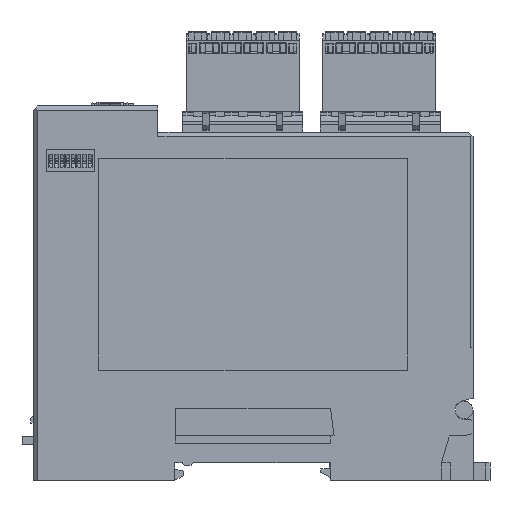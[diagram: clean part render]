
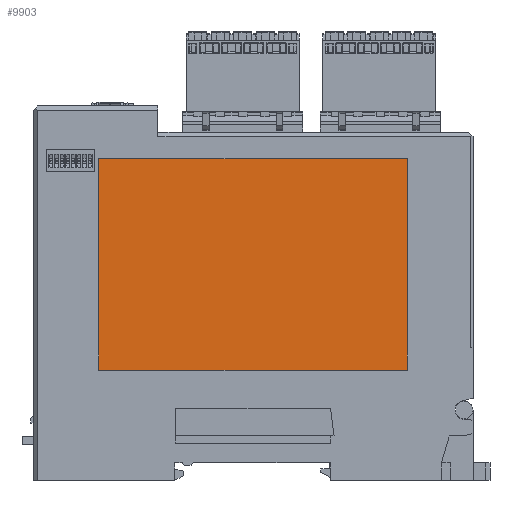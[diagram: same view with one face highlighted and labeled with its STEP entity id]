
A CAD part, left-side view. The second image highlights one B-rep face of the part: STEP entity #9903.
In plain terms, the highlighted planar face has unit normal (-1, 0, 0).
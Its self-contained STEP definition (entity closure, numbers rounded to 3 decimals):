
#2166 = ORIENTED_EDGE ( 'NONE', *, *, #101942, .T. ) ;
#5146 = DIRECTION ( 'NONE',  ( 0., 0., 1. ) ) ;
#7055 = CARTESIAN_POINT ( 'NONE',  ( -14.7, 35.01, 30.55 ) ) ;
#9903 = ADVANCED_FACE ( 'NONE', ( #82883 ), #39247, .T. ) ;
#17456 = VECTOR ( 'NONE', #48128, 1000. ) ;
#29666 = AXIS2_PLACEMENT_3D ( 'NONE', #48089, #47023, #65788 ) ;
#33630 = DIRECTION ( 'NONE',  ( 0., 1., 0. ) ) ;
#34094 = VERTEX_POINT ( 'NONE', #70989 ) ;
#34609 = EDGE_CURVE ( 'NONE', #63280, #34094, #49214, .T. ) ;
#39247 = PLANE ( 'NONE',  #29666 ) ;
#40501 = ORIENTED_EDGE ( 'NONE', *, *, #97681, .T. ) ;
#41094 = VECTOR ( 'NONE', #5146, 1000. ) ;
#47023 = DIRECTION ( 'NONE',  ( -1., 0., 0. ) ) ;
#48089 = CARTESIAN_POINT ( 'NONE',  ( -14.7, 0., 0. ) ) ;
#48128 = DIRECTION ( 'NONE',  ( 0., 0., -1. ) ) ;
#49214 = LINE ( 'NONE', #49759, #17456 ) ;
#49759 = CARTESIAN_POINT ( 'NONE',  ( -14.7, 35.01, -17.46 ) ) ;
#52410 = VECTOR ( 'NONE', #33630, 1000. ) ;
#53981 = VERTEX_POINT ( 'NONE', #78032 ) ;
#55947 = VERTEX_POINT ( 'NONE', #68653 ) ;
#56442 = CARTESIAN_POINT ( 'NONE',  ( -14.7, 35.01, -17.46 ) ) ;
#57537 = DIRECTION ( 'NONE',  ( 0., -1., 0. ) ) ;
#63280 = VERTEX_POINT ( 'NONE', #7055 ) ;
#64311 = LINE ( 'NONE', #90784, #41094 ) ;
#65769 = CARTESIAN_POINT ( 'NONE',  ( -14.7, 35.01, 30.55 ) ) ;
#65788 = DIRECTION ( 'NONE',  ( 0., 0., 1. ) ) ;
#65846 = LINE ( 'NONE', #56442, #74253 ) ;
#68653 = CARTESIAN_POINT ( 'NONE',  ( -14.7, -35., 30.55 ) ) ;
#70989 = CARTESIAN_POINT ( 'NONE',  ( -14.7, 35.01, -17.46 ) ) ;
#72916 = EDGE_CURVE ( 'NONE', #55947, #63280, #107679, .T. ) ;
#73111 = EDGE_LOOP ( 'NONE', ( #40501, #2166, #106818, #91499 ) ) ;
#74253 = VECTOR ( 'NONE', #57537, 1000. ) ;
#78032 = CARTESIAN_POINT ( 'NONE',  ( -14.7, -35., -17.46 ) ) ;
#82883 = FACE_OUTER_BOUND ( 'NONE', #73111, .T. ) ;
#90784 = CARTESIAN_POINT ( 'NONE',  ( -14.7, -35., -17.46 ) ) ;
#91499 = ORIENTED_EDGE ( 'NONE', *, *, #34609, .T. ) ;
#97681 = EDGE_CURVE ( 'NONE', #34094, #53981, #65846, .T. ) ;
#101942 = EDGE_CURVE ( 'NONE', #53981, #55947, #64311, .T. ) ;
#106818 = ORIENTED_EDGE ( 'NONE', *, *, #72916, .T. ) ;
#107679 = LINE ( 'NONE', #65769, #52410 ) ;
